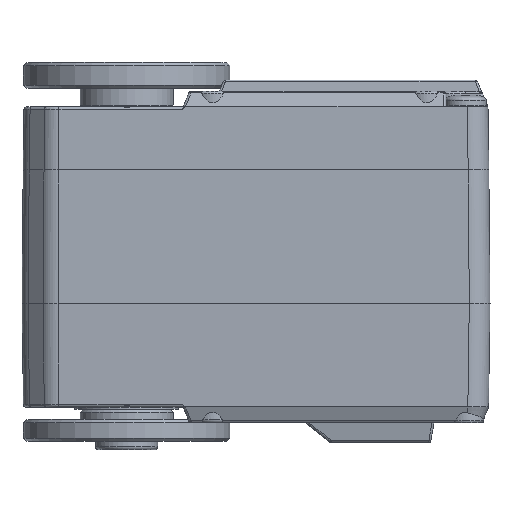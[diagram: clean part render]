
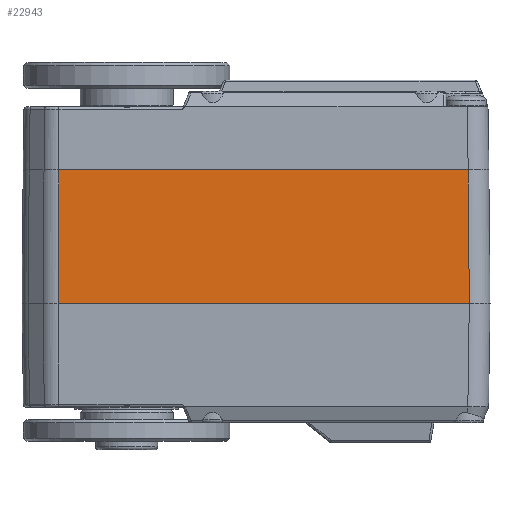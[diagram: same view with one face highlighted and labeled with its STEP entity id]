
A CAD part, top view. The second image highlights one B-rep face of the part: STEP entity #22943.
In plain terms, the highlighted planar face has unit normal (0, 0.009, 1).
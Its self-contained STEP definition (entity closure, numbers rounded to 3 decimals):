
#20950=CARTESIAN_POINT('',(7.613,-14.1,12.363));
#20960=DIRECTION('',(0.009,-1.,0.009));
#20961=VECTOR('',#20960,12.901);
#20962=CARTESIAN_POINT('',(7.5,-1.2,12.25));
#20963=LINE('',#20962,#20961);
#20964=DIRECTION('',(-1.,0.,0.));
#20965=VECTOR('',#20964,39.731);
#20966=CARTESIAN_POINT('',(7.613,-14.1,12.363));
#20967=LINE('',#20966,#20965);
#20968=DIRECTION('',(0.004,1.,-0.009));
#20969=VECTOR('',#20968,12.901);
#20970=CARTESIAN_POINT('',(-32.118,-14.1,12.363));
#20971=LINE('',#20970,#20969);
#20972=CARTESIAN_POINT('',(-32.118,-14.1,12.363));
#20996=DIRECTION('',(-1.,0.,0.));
#20997=VECTOR('',#20996,39.572);
#20998=CARTESIAN_POINT('',(7.5,-1.2,12.25));
#20999=LINE('',#20998,#20997);
#22381=VERTEX_POINT('',#20950);
#22392=VERTEX_POINT('',#20972);
#22417=CARTESIAN_POINT('',(7.5,-1.2,12.25));
#22418=VERTEX_POINT('',#22417);
#22420=CARTESIAN_POINT('',(-32.072,-1.2,12.25));
#22421=VERTEX_POINT('',#22420);
#22930=CARTESIAN_POINT('',(-36.478,-1.2,12.25));
#22931=DIRECTION('',(0.,0.009,1.));
#22932=DIRECTION('',(1.,0.,0.));
#22933=AXIS2_PLACEMENT_3D('',#22930,#22931,#22932);
#22934=PLANE('',#22933);
#22935=ORIENTED_EDGE('',*,*,#22921,.T.);
#22936=ORIENTED_EDGE('',*,*,#22884,.T.);
#22938=ORIENTED_EDGE('',*,*,#22937,.T.);
#22940=ORIENTED_EDGE('',*,*,#22939,.F.);
#22941=EDGE_LOOP('',(#22935,#22936,#22938,#22940));
#22942=FACE_OUTER_BOUND('',#22941,.F.);
#22884=EDGE_CURVE('',#22381,#22392,#20967,.T.);
#22921=EDGE_CURVE('',#22418,#22381,#20963,.T.);
#22937=EDGE_CURVE('',#22392,#22421,#20971,.T.);
#22939=EDGE_CURVE('',#22418,#22421,#20999,.T.);
#22943=ADVANCED_FACE('',(#22942),#22934,.T.);
